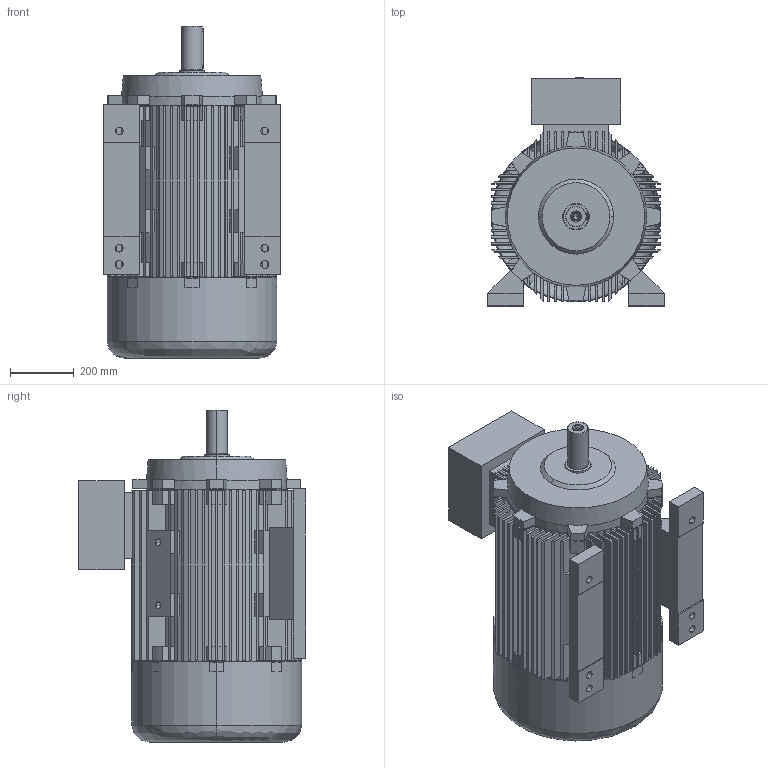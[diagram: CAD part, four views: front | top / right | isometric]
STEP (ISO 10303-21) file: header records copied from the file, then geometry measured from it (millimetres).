
FILE_DESCRIPTION (( 'STEP AP203' ), '1' );
FILE_NAME ('20.17511_A 7AT 280S&M -2 B3 STANDK.STEP', '2018-04-11T07:11:17', ( '' ), ( '' ), 'SwSTEP 2.0', 'SolidWorks 2017', '' );
FILE_SCHEMA (( 'CONFIG_CONTROL_DESIGN' ));
Length unit declared in the file: millimetre
Products named in the file (1): 20.17511_A 7AT 280S&M -2 B3 STANDK
Bounding box: 555 x 716 x 1043 mm (x, y, z)
Volume: 68054684 mm3; surface area: 8408249.2 mm2
Topology: 9 solids, 9 shells, 932 faces, 2553 edges, 1683 vertices
Faces by surface type: plane 733, cylinder 148, cone 38, bspline 13
Entity records: 30165 total; most frequent: CARTESIAN_POINT 6068, ORIENTED_EDGE 5070, DIRECTION 4925, EDGE_CURVE 2535, VECTOR 1869, LINE 1869, VERTEX_POINT 1683, AXIS2_PLACEMENT_3D 1528
